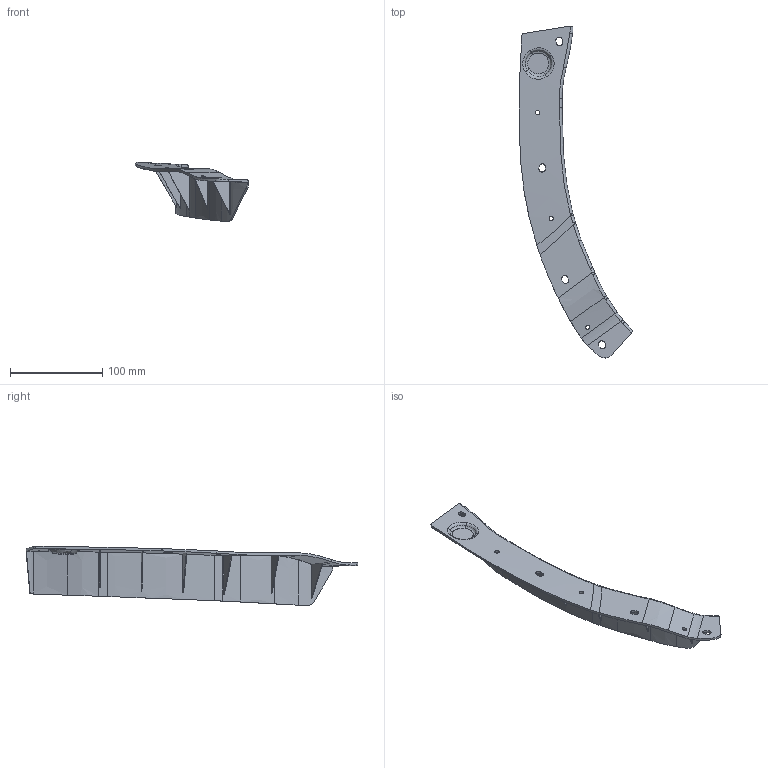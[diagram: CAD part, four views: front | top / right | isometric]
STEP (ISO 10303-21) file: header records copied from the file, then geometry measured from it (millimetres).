
FILE_DESCRIPTION(/* description */ (''),/* implementation_level */ '2;1');
FILE_NAME(/* name */ '638422166R_SHIELD-FR 1 RH WHEEL HOUSE_stp.stp',/* time_stamp */ '2026-07-17T15:04:27+08:00',/* author */ (''),/* organization */ (''),/* preprocessor_version */ 'ST-DEVELOPER v16.7',/* originating_system */ 'SIEMENS PLM Software NX 12.0',/* authorisation */ '');
FILE_SCHEMA (('AUTOMOTIVE_DESIGN { 1 0 10303 214 3 1 1 1 }'));
Length unit declared in the file: millimetre
Products named in the file (1): admi85D0E95Fb4p6
Bounding box: 123.31 x 359.81 x 64.38 mm (x, y, z)
Volume: 86075.3 mm3; surface area: 75364.9 mm2
Topology: 1 solids, 1 shells, 147 faces, 402 edges, 259 vertices
Faces by surface type: bspline 80, extrusion 27, plane 25, cylinder 15
Full cylindrical faces by diameter (mm): 4.7 x2
Entity records: 16460 total; most frequent: CARTESIAN_POINT 13582, ORIENTED_EDGE 798, EDGE_CURVE 399, B_SPLINE_CURVE_WITH_KNOTS 354, VERTEX_POINT 259, DIRECTION 195, EDGE_LOOP 166, ADVANCED_FACE 147
